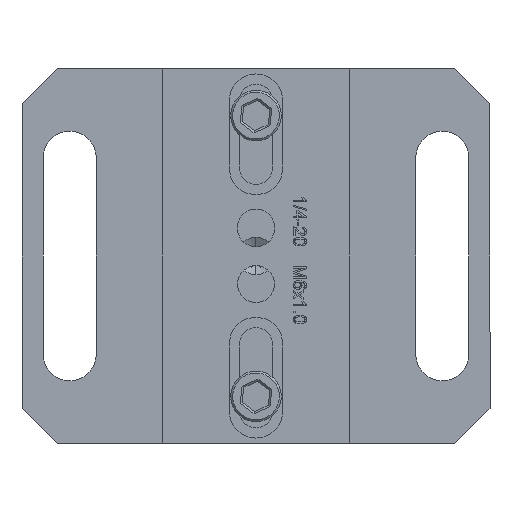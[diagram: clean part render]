
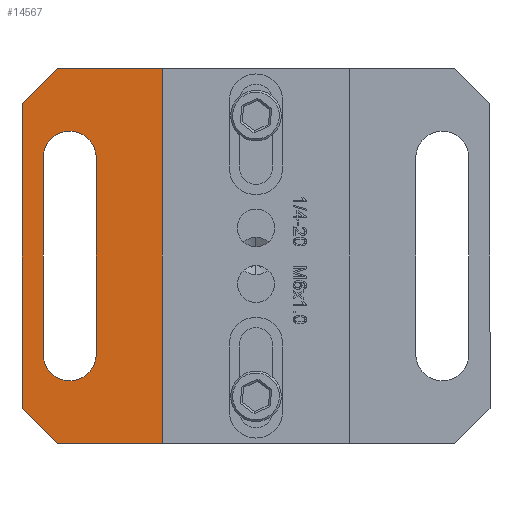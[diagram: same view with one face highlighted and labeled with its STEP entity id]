
A CAD part, front view. The second image highlights one B-rep face of the part: STEP entity #14567.
In plain terms, the highlighted planar face has unit normal (0, -1, 0).
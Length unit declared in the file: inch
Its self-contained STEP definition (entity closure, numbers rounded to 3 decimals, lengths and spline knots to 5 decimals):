
#419 = DIRECTION ( 'NONE',  ( 0., 0., -1. ) ) ;
#454 = CARTESIAN_POINT ( 'NONE',  ( -1.25, -0.37, -0.8125 ) ) ;
#859 = LINE ( 'NONE', #4417, #8602 ) ;
#1056 = CIRCLE ( 'NONE', #20845, 0.1415 ) ;
#1633 = DIRECTION ( 'NONE',  ( 0., 0., -1. ) ) ;
#1741 = ORIENTED_EDGE ( 'NONE', *, *, #13736, .T. ) ;
#2172 = CARTESIAN_POINT ( 'NONE',  ( -1.1365, -0.37, -0.525 ) ) ;
#2648 = ORIENTED_EDGE ( 'NONE', *, *, #21704, .F. ) ;
#3211 = VERTEX_POINT ( 'NONE', #13468 ) ;
#3230 = VERTEX_POINT ( 'NONE', #9641 ) ;
#3568 = DIRECTION ( 'NONE',  ( 0., 1., 0. ) ) ;
#3685 = VECTOR ( 'NONE', #24479, 39.37008 ) ;
#3978 = DIRECTION ( 'NONE',  ( 0., 0., 1. ) ) ;
#4047 = CARTESIAN_POINT ( 'NONE',  ( -1.0625, -0.37, -1. ) ) ;
#4417 = CARTESIAN_POINT ( 'NONE',  ( 1.25, -0.37, -1. ) ) ;
#4754 = EDGE_LOOP ( 'NONE', ( #1741, #14577, #18126, #22794, #15544 ) ) ;
#4765 = CARTESIAN_POINT ( 'NONE',  ( -0.5, -0.37, -1. ) ) ;
#5934 = EDGE_CURVE ( 'NONE', #19900, #20311, #6483, .T. ) ;
#6327 = FACE_OUTER_BOUND ( 'NONE', #15001, .T. ) ;
#6483 = LINE ( 'NONE', #11535, #7673 ) ;
#6510 = VERTEX_POINT ( 'NONE', #24352 ) ;
#7251 = LINE ( 'NONE', #8026, #18574 ) ;
#7387 = VERTEX_POINT ( 'NONE', #2172 ) ;
#7673 = VECTOR ( 'NONE', #13363, 39.37008 ) ;
#7848 = DIRECTION ( 'NONE',  ( 0., 1., 0. ) ) ;
#8026 = CARTESIAN_POINT ( 'NONE',  ( -0.8535, -0.37, -0.525 ) ) ;
#8129 = CARTESIAN_POINT ( 'NONE',  ( -0.8535, -0.37, 0.525 ) ) ;
#8379 = DIRECTION ( 'NONE',  ( -1., 0., 0. ) ) ;
#8470 = ORIENTED_EDGE ( 'NONE', *, *, #21417, .T. ) ;
#8602 = VECTOR ( 'NONE', #8379, 39.37008 ) ;
#8693 = ORIENTED_EDGE ( 'NONE', *, *, #23855, .T. ) ;
#8730 = LINE ( 'NONE', #12904, #3685 ) ;
#8978 = VERTEX_POINT ( 'NONE', #8129 ) ;
#9307 = DIRECTION ( 'NONE',  ( -0.707, 0., -0.707 ) ) ;
#9447 = PLANE ( 'NONE',  #20410 ) ;
#9641 = CARTESIAN_POINT ( 'NONE',  ( -1.25, -0.37, 0.8125 ) ) ;
#9722 = CARTESIAN_POINT ( 'NONE',  ( -1.1365, -0.37, 0.525 ) ) ;
#9829 = CARTESIAN_POINT ( 'NONE',  ( -1.1365, -0.37, -0.525 ) ) ;
#9987 = VECTOR ( 'NONE', #12170, 39.37008 ) ;
#10532 = DIRECTION ( 'NONE',  ( 0., 0., -1. ) ) ;
#11378 = VECTOR ( 'NONE', #3978, 39.37008 ) ;
#11383 = AXIS2_PLACEMENT_3D ( 'NONE', #21928, #23844, #10532 ) ;
#11387 = EDGE_CURVE ( 'NONE', #3211, #14436, #1056, .T. ) ;
#11535 = CARTESIAN_POINT ( 'NONE',  ( -1.25, -0.37, -0.8125 ) ) ;
#11646 = CIRCLE ( 'NONE', #11383, 0.1415 ) ;
#11663 = LINE ( 'NONE', #18858, #16155 ) ;
#12170 = DIRECTION ( 'NONE',  ( 0., 0., 1. ) ) ;
#12904 = CARTESIAN_POINT ( 'NONE',  ( -1.25, -0.37, -1. ) ) ;
#12997 = CARTESIAN_POINT ( 'NONE',  ( -1.25, -0.37, 1. ) ) ;
#13363 = DIRECTION ( 'NONE',  ( 0.707, 0., -0.707 ) ) ;
#13468 = CARTESIAN_POINT ( 'NONE',  ( -0.8535, -0.37, -0.525 ) ) ;
#13608 = DIRECTION ( 'NONE',  ( 0., 1., 0. ) ) ;
#13736 = EDGE_CURVE ( 'NONE', #8978, #3211, #7251, .T. ) ;
#14334 = EDGE_CURVE ( 'NONE', #14436, #7387, #11646, .T. ) ;
#14436 = VERTEX_POINT ( 'NONE', #16297 ) ;
#14567 = ADVANCED_FACE ( 'NONE', ( #14920, #6327 ), #9447, .F. ) ;
#14577 = ORIENTED_EDGE ( 'NONE', *, *, #11387, .T. ) ;
#14865 = CIRCLE ( 'NONE', #18881, 0.1415 ) ;
#14920 = FACE_BOUND ( 'NONE', #4754, .T. ) ;
#15001 = EDGE_LOOP ( 'NONE', ( #23598, #8470, #21180, #24301, #2648, #8693 ) ) ;
#15460 = CARTESIAN_POINT ( 'NONE',  ( -0.995, -0.37, 0.525 ) ) ;
#15474 = LINE ( 'NONE', #22693, #16372 ) ;
#15544 = ORIENTED_EDGE ( 'NONE', *, *, #21525, .T. ) ;
#16155 = VECTOR ( 'NONE', #16832, 39.37008 ) ;
#16292 = VERTEX_POINT ( 'NONE', #17183 ) ;
#16297 = CARTESIAN_POINT ( 'NONE',  ( -0.995, -0.37, -0.6665 ) ) ;
#16372 = VECTOR ( 'NONE', #9307, 39.37008 ) ;
#16832 = DIRECTION ( 'NONE',  ( 1., 0., 0. ) ) ;
#17183 = CARTESIAN_POINT ( 'NONE',  ( -1.0625, -0.37, 1. ) ) ;
#17235 = DIRECTION ( 'NONE',  ( 0., 0., -1. ) ) ;
#17879 = EDGE_CURVE ( 'NONE', #19900, #3230, #8730, .T. ) ;
#18031 = EDGE_CURVE ( 'NONE', #7387, #23302, #23380, .T. ) ;
#18126 = ORIENTED_EDGE ( 'NONE', *, *, #14334, .T. ) ;
#18213 = EDGE_CURVE ( 'NONE', #16292, #6510, #11663, .T. ) ;
#18574 = VECTOR ( 'NONE', #21393, 39.37008 ) ;
#18858 = CARTESIAN_POINT ( 'NONE',  ( 1.25, -0.37, 1. ) ) ;
#18881 = AXIS2_PLACEMENT_3D ( 'NONE', #15460, #13608, #17235 ) ;
#19379 = CARTESIAN_POINT ( 'NONE',  ( -0.995, -0.37, -0.525 ) ) ;
#19900 = VERTEX_POINT ( 'NONE', #454 ) ;
#20311 = VERTEX_POINT ( 'NONE', #4047 ) ;
#20410 = AXIS2_PLACEMENT_3D ( 'NONE', #12997, #3568, #1633 ) ;
#20845 = AXIS2_PLACEMENT_3D ( 'NONE', #19379, #7848, #419 ) ;
#21180 = ORIENTED_EDGE ( 'NONE', *, *, #17879, .F. ) ;
#21393 = DIRECTION ( 'NONE',  ( 0., 0., -1. ) ) ;
#21417 = EDGE_CURVE ( 'NONE', #16292, #3230, #15474, .T. ) ;
#21525 = EDGE_CURVE ( 'NONE', #23302, #8978, #14865, .T. ) ;
#21704 = EDGE_CURVE ( 'NONE', #24679, #20311, #859, .T. ) ;
#21928 = CARTESIAN_POINT ( 'NONE',  ( -0.995, -0.37, -0.525 ) ) ;
#22693 = CARTESIAN_POINT ( 'NONE',  ( -1.0625, -0.37, 1. ) ) ;
#22794 = ORIENTED_EDGE ( 'NONE', *, *, #18031, .T. ) ;
#23302 = VERTEX_POINT ( 'NONE', #9722 ) ;
#23380 = LINE ( 'NONE', #9829, #11378 ) ;
#23598 = ORIENTED_EDGE ( 'NONE', *, *, #18213, .F. ) ;
#23659 = CARTESIAN_POINT ( 'NONE',  ( -0.5, -0.37, -1. ) ) ;
#23844 = DIRECTION ( 'NONE',  ( 0., 1., 0. ) ) ;
#23855 = EDGE_CURVE ( 'NONE', #24679, #6510, #24651, .T. ) ;
#24301 = ORIENTED_EDGE ( 'NONE', *, *, #5934, .T. ) ;
#24352 = CARTESIAN_POINT ( 'NONE',  ( -0.5, -0.37, 1. ) ) ;
#24479 = DIRECTION ( 'NONE',  ( 0., 0., 1. ) ) ;
#24651 = LINE ( 'NONE', #23659, #9987 ) ;
#24679 = VERTEX_POINT ( 'NONE', #4765 ) ;
